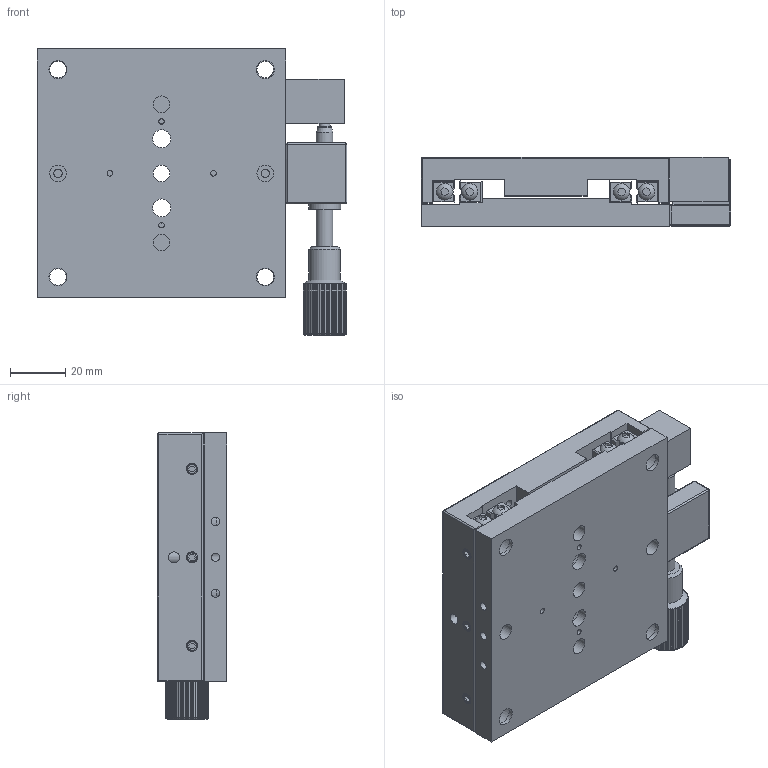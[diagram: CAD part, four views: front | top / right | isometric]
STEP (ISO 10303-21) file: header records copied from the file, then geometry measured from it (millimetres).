
FILE_DESCRIPTION (( 'STEP AP203' ), '1' );
FILE_NAME ('TSS90X-1A.step', '2017-01-10T09:24:00', ( '¦K¬P' ), ( '' ), 'SwSTEP 2.0', 'SolidWorks 2012', '' );
FILE_SCHEMA (( 'CONFIG_CONTROL_DESIGN' ));
Length unit declared in the file: millimetre
Products named in the file (1): TSS90X-1A
Bounding box: 112 x 25 x 103.5 mm (x, y, z)
Surface area: 61247.4 mm2 (no closed solid volume)
Topology: 0 solids, 31 shells, 556 faces, 1637 edges, 1088 vertices
Faces by surface type: plane 367, cylinder 151, cone 18, sphere 11, torus 9
Full cylindrical faces by diameter (mm): 1.7 x2, 2 x6, 3 x10, 4 x13, 5 x1, 6 x23, 6.5 x6, 8 x1, 10 x1, 11 x8, 11.4 x1, 11.5 x1
Entity records: 18504 total; most frequent: CARTESIAN_POINT 4450, ORIENTED_EDGE 2743, DIRECTION 2695, EDGE_CURVE 1492, VERTEX_POINT 1055, AXIS2_PLACEMENT_3D 926, LINE 843, VECTOR 843
